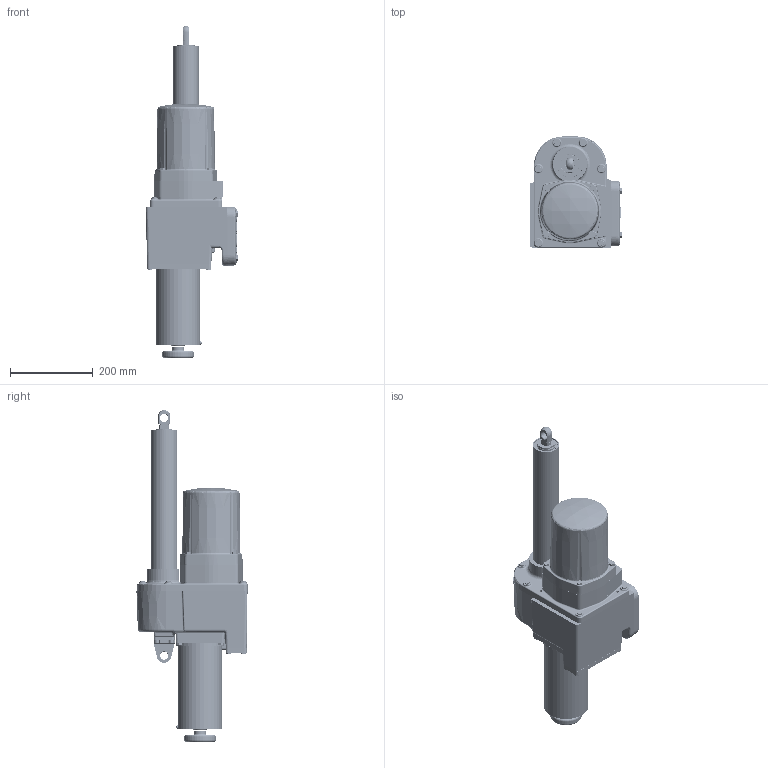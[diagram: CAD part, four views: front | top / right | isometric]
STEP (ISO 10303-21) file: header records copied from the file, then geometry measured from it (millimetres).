
FILE_DESCRIPTION (( 'STEP AP203' ), '1' );
FILE_NAME ('18-4217-01_12_solid.STEP', '2011-07-08T12:17:19', ( '' ), ( '' ), 'SwSTEP 2.0', 'SolidWorks 2009', '' );
FILE_SCHEMA (( 'CONFIG_CONTROL_DESIGN' ));
Length unit declared in the file: inch
Products named in the file (1): 18-4217-01_12_solid
Bounding box: 222.58 x 268.45 x 801.9 mm (x, y, z)
Volume: 5395757.8 mm3; surface area: 1498490.7 mm2
Topology: 53 solids, 53 shells, 4216 faces, 10051 edges, 5871 vertices
Faces by surface type: cylinder 1364, plane 939, cone 792, torus 495, bspline 467, sphere 159
Entity records: 186041 total; most frequent: CARTESIAN_POINT 91203, DIRECTION 20420, ORIENTED_EDGE 19636, EDGE_CURVE 9818, AXIS2_PLACEMENT_3D 8438, VERTEX_POINT 5865, CIRCLE 4688, EDGE_LOOP 4601
